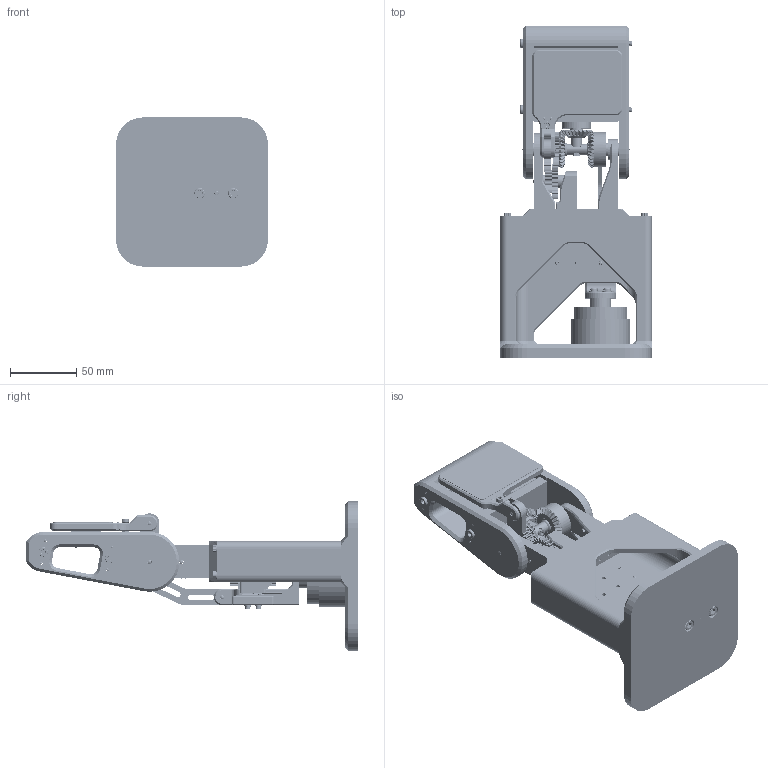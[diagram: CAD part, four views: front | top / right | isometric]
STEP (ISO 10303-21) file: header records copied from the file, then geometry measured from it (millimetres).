
FILE_DESCRIPTION(/* description */ ('STEP AP242 Edition 2','CAx-IF Rec.Pracs.---Representation and Presentation of Product Manufacturing Information (PMI)---4.0---2014-10-13','CAx-IF Rec.Pracs.---3D Tessellated Geometry---0.4---2014-09-14','2;1','CAx-IF Rec.Pracs.---User Defined Attributes---1.5---2016-08-15'),/* implementation_level */ '2;1');
FILE_NAME(/* name */ '694825b2898093c60e0655f6',/* time_stamp */ '2025-12-21T16:52:15Z',/* author */ (''),/* organization */ (''),/* preprocessor_version */ 'ST-DEVELOPER v20',/* originating_system */ 'ONSHAPE BY PTC INC, 1.208',/* authorisation */ ' ');
FILE_SCHEMA (('AP242_MANAGED_MODEL_BASED_3D_ENGINEERING_MIM_LF { 1 0 10303 442 3 1 4 }'));
Products named in the file (139): M2 heat set insert; M2 x 6 mm socket head screw; M2 x 8 mm flathead screw; M3 heat set insert; M2 x 8 mm socket head screw; M3 x 14 mm socket head screw; M2 lockwasher; M3 x 10 mm socket head screw; M3 x 12 mm button head screw; M3 x 8 mm socket head screw; M3 x 30 mm socket head screw; M3 hex nut; M3 lockwasher; 10/32 x 3/8" UNF socket head screw; M4 hex nut; Posic_11XX_Encoder_fill; MR63ZZ ball bearing; Input spur gear / output bevel gear; Finger bevel gear; Input bevel gear; Dowel pin 2 x 6 mm; Posic_11XX_Encoder_thick; Posic_11XX_Encoder_thin; Bearing block; MR128ZZ ball bearing; Posic_11XX_Cable; Dowel pin 3 x 9 mm; Compound spur gear; M4 x 80 mm socket head screw; Dowel pin 2 x 12 mm; M2 washer; Dowel pin 3 x 12 mm; Central shaft; Dowel pin 1/8" x 1/2"; Posic_11XX_HolderA; M3 washer; Output spur gear; Output spur gear to output surface interface; Rail; Spur gear spacer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
Bounding box: 114.33 x 249.95 x 112.33 mm (x, y, z)
Volume: 564620.5 mm3; surface area: 218072.3 mm2
Topology: 135 solids, 152 shells, 10256 faces, 28355 edges, 18875 vertices
Faces by surface type: plane 3289, cylinder 2992, bspline 2371, cone 1329, torus 215, sphere 60
Full cylindrical faces by diameter (mm): 0.1 x10, 0.4 x5, 1 x6, 1.567 x16, 2 x19, 2.1 x40, 2.2 x12, 2.4 x12, 2.5 x2, 2.53 x16, 2.8 x2, 3 x244, 3.1 x6, 3.175 x6, 3.2 x2, 3.3 x22, 3.323 x8, 3.4 x2, 3.58 x8, 3.8 x12, 4 x60, 4.039 x2, 4.152 x2, 4.192 x12, 4.2 x4, 4.3 x4, 4.4 x2, 4.697 x5, 4.808 x12, 4.978 x2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
Entity records: 449647 total; most frequent: CARTESIAN_POINT 219553, ORIENTED_EDGE 53070, DIRECTION 41081, EDGE_CURVE 26535, VERTEX_POINT 18237, AXIS2_PLACEMENT_3D 16660, FACE_BOUND 11656, EDGE_LOOP 11644
